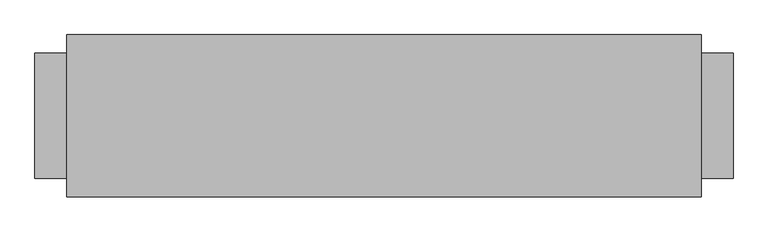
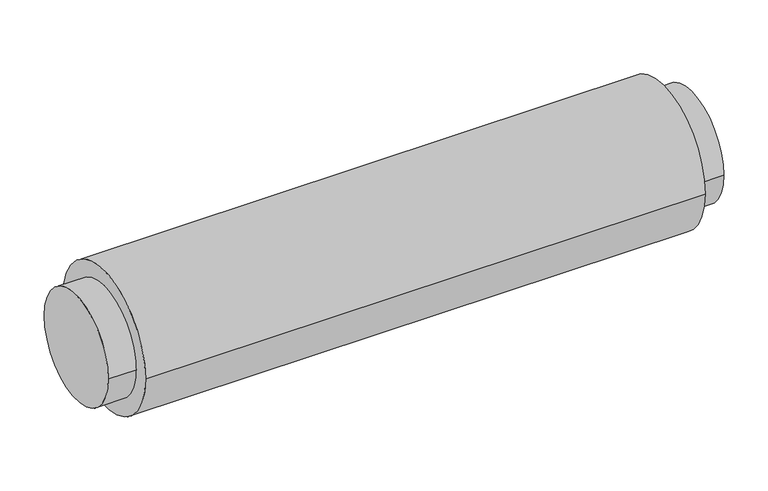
"""IFC4 building model written with IfcOpenShell, lengths in millimetres: damper geometry, VE-Tłumik_Akustyczny-ParaForma-Harmann-FLEXITEC : 200-1000."""

from ifc_helpers import new_model, si_unit, point, frame, origin, origin_2d, place, context, project, spatial, circle_curve, trimmed, segment, composite_curve, outline, extrude, source, transform, mapped, element, save


def damper_5dbd74d1(model_context):
    return source(origin(), model_context, "Body", "SweptSolid", [
        extrude(outline(composite_curve([segment(trimmed(circle_curve(origin_2d(), 99.0), [point((-99.0, 0.0))], [point((99.0, 0.0))], False, "CARTESIAN"), True, "CONTINUOUS"), segment(trimmed(circle_curve(origin_2d(), 99.0), [point((99.0, 0.0))], [point((-99.0, 0.0))], False, "CARTESIAN"), True, "CONTINUOUS")], self_intersect=False)), frame((500.0, 0.0, 0.0), z_axis=(1.0, 0.0, 0.0), x_axis=(0.0, 1.0, 0.0)), (0.0, 0.0, 1.0), 50.0),
        extrude(outline(composite_curve([segment(trimmed(circle_curve(origin_2d(), 99.0), [point((-99.0, 0.0))], [point((99.0, 0.0))], False, "CARTESIAN"), True, "CONTINUOUS"), segment(trimmed(circle_curve(origin_2d(), 99.0), [point((99.0, 0.0))], [point((-99.0, 0.0))], False, "CARTESIAN"), True, "CONTINUOUS")], self_intersect=False)), frame((-550.0, 0.0, 0.0), z_axis=(1.0, 0.0, 0.0), x_axis=(0.0, 1.0, 0.0)), (0.0, 0.0, 1.0), 50.0),
        extrude(outline(composite_curve([segment(trimmed(circle_curve(origin_2d(), 127.95), [point((-127.95, 0.0))], [point((127.95, 0.0))], False, "CARTESIAN"), True, "CONTINUOUS"), segment(trimmed(circle_curve(origin_2d(), 127.95), [point((127.95, 0.0))], [point((-127.95, 0.0))], False, "CARTESIAN"), True, "CONTINUOUS")], self_intersect=False)), frame((-500.0, 0.0, 0.0), z_axis=(1.0, 0.0, 0.0), x_axis=(0.0, 1.0, 0.0)), (0.0, 0.0, 1.0), 1000.0),
    ])


if __name__ == "__main__":
    model = new_model("IFC4")
    model_context = context("Model", 3, world=origin())
    ifc_project = project(units=[si_unit("LENGTHUNIT", "METRE", prefix="MILLI")], contexts=[model_context])
    site = spatial("IfcSite", under=ifc_project)
    building = spatial("IfcBuilding", under=site)
    placement = place(None, origin())
    damper_shape = damper_5dbd74d1(model_context)
    element("IfcDamper", 1, ObjectType="VE-Tłumik_Akustyczny-ParaForma-Harmann-FLEXITEC : 200-1000", at=placement, inside=building, context=model_context, shape_type="MappedRepresentation", body=[
        mapped(damper_shape, transform((0.0, 0.0, 0.0), x_axis=(1.0, 0.0, 0.0), y_axis=(0.0, 1.0, 0.0), z_axis=(0.0, 0.0, 1.0))),
    ])
    save(model, "model.ifc")
